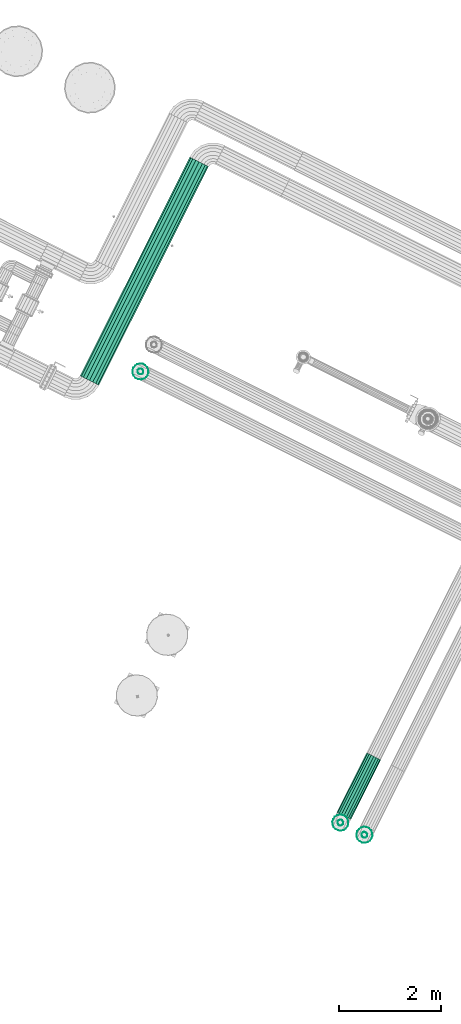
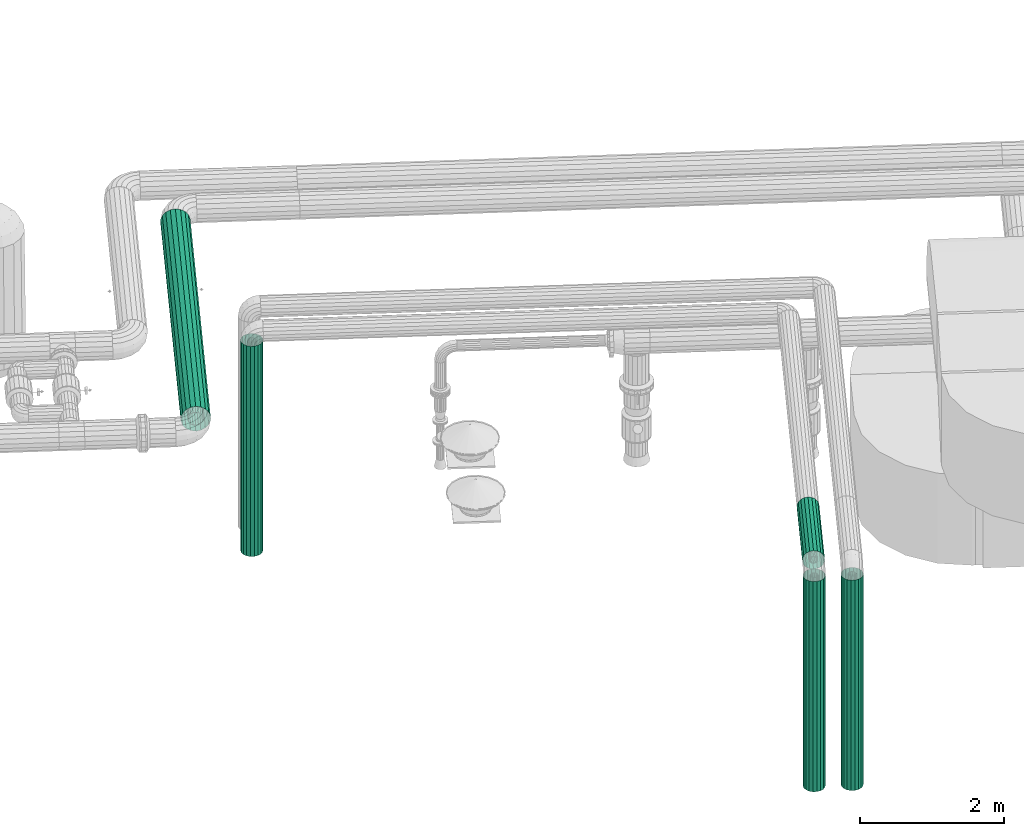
# One storey, part 4 of 152: 5 flow segments.
"""IFC2X3 building model written with IfcOpenShell, lengths in metres."""

from ifc_helpers import new_model, si_unit, derived_unit, direction, frame, origin, place, context, subcontext, project, spatial, face_set, surface_model, source, transform, mapped, material, type_object, type_shapes, element, save


model = new_model("IFC2X3")

# Units and contexts
model_context = context("Model", 3, precision=5.2338327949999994e-05, world=origin(), true_north=direction((0.0, 1.0)))
body_context = subcontext(model_context, "Body", "Model", "MODEL_VIEW")
ifc_project = project(units=[si_unit("LENGTHUNIT", "METRE"), si_unit("AREAUNIT", "SQUARE_METRE"), si_unit("VOLUMEUNIT", "CUBIC_METRE"), si_unit("MASSUNIT", "GRAM", prefix="KILO"), si_unit("PLANEANGLEUNIT", "RADIAN"), derived_unit("THERMALTRANSMITTANCEUNIT", [(si_unit("MASSUNIT", "GRAM", prefix="KILO"), 1), (si_unit("THERMODYNAMICTEMPERATUREUNIT", "KELVIN"), -1), (si_unit("TIMEUNIT", "SECOND"), -3)])], contexts=[model_context])

# Site, building, storey
site_placement = place(None, frame((0.0, 0.0, 0.0), z_axis=(0.0, 0.0, 1.0), x_axis=(0.8939966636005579, -0.4480736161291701, 0.0)))
site = spatial("IfcSite", under=ifc_project, at=site_placement, Name="Default", CompositionType="ELEMENT")
building_placement = place(site_placement, origin())
building = spatial("IfcBuilding", under=site, at=building_placement, CompositionType="ELEMENT")
storey_placement = place(building_placement, frame((0.0, 0.0, 2.7499999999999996)))
storey = spatial("IfcBuildingStorey", under=building, at=storey_placement, Name="1. Obergeschoss", CompositionType="ELEMENT", Elevation=2.7499999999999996)

# Flow segments
ifc_material_1 = material(Name="IfcSurfaceStyle #9317")
distribution_element_type_1 = type_object("IfcDistributionElementType", Name="Stahlrohr nach DIN 2448 9686:Stahlrohr nach DIN 2448 9686", material=ifc_material_1)
shared_shape_1 = source(origin(), body_context, "Body", "SurfaceModel", [
    surface_model("IfcFaceBasedSurfaceModel", [(17.569082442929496, 6.7661679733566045, 2.95), (17.572529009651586, 6.746621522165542, 2.95), (17.572529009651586, 6.746621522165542, 6.518000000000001), (17.569082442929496, 6.7661679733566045, 6.518000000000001), (17.582453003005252, 6.729432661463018, 2.95), (17.582453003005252, 6.729432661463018, 6.518000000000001), (17.5976574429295, 6.7166746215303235, 2.95), (17.5976574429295, 6.7166746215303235, 6.518000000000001), (17.616308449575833, 6.709886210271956, 2.95), (17.616308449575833, 6.709886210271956, 6.518000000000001), (17.636156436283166, 6.709886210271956, 2.95), (17.636156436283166, 6.709886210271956, 6.518000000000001), (17.654807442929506, 6.7166746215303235, 2.95), (17.654807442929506, 6.7166746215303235, 6.518000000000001), (17.67001188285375, 6.729432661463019, 2.95), (17.67001188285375, 6.729432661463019, 6.518000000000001), (17.679935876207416, 6.746621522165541, 2.95), (17.679935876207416, 6.746621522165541, 6.518000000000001), (17.6833824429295, 6.766167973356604, 2.95), (17.6833824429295, 6.766167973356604, 6.518000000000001), (17.679935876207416, 6.785714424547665, 2.95), (17.679935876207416, 6.785714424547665, 6.518000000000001), (17.67001188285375, 6.802903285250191, 2.95), (17.67001188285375, 6.802903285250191, 6.518000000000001), (17.654807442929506, 6.815661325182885, 2.95), (17.654807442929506, 6.815661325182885, 6.518000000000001), (17.63615643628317, 6.822449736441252, 2.95), (17.63615643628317, 6.822449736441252, 6.518000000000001), (17.616308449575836, 6.822449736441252, 2.95), (17.616308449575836, 6.822449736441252, 6.518000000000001), (17.597657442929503, 6.815661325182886, 2.95), (17.597657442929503, 6.815661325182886, 6.518000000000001), (17.582453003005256, 6.802903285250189, 2.95), (17.582453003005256, 6.802903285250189, 6.518000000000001), (17.57252900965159, 6.785714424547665, 2.95), (17.57252900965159, 6.785714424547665, 6.518000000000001), (17.4690824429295, 6.766167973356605, 2.95), (17.478559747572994, 6.712419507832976, 2.95), (17.478559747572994, 6.712419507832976, 6.518000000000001), (17.4690824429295, 6.766167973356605, 6.518000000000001), (17.505848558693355, 6.665153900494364, 2.95), (17.505848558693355, 6.665153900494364, 6.518000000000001), (17.547657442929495, 6.630072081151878, 2.95), (17.547657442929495, 6.630072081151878, 6.518000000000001), (17.598943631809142, 6.611405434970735, 2.95), (17.598943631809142, 6.611405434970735, 6.518000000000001), (17.653521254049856, 6.6114054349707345, 2.95), (17.653521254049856, 6.6114054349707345, 6.518000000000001), (17.704807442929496, 6.630072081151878, 2.95), (17.704807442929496, 6.630072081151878, 6.518000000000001), (17.746616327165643, 6.665153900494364, 2.95), (17.746616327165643, 6.665153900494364, 6.518000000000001), (17.773905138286, 6.712419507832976, 2.95), (17.773905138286, 6.712419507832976, 6.518000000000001), (17.783382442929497, 6.766167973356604, 2.95), (17.783382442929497, 6.766167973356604, 6.518000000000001), (17.773905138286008, 6.8199164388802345, 2.95), (17.773905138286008, 6.8199164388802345, 6.518000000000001), (17.746616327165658, 6.867182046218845, 2.95), (17.746616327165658, 6.867182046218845, 6.518000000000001), (17.70480744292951, 6.9022638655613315, 2.95), (17.70480744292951, 6.9022638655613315, 6.518000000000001), (17.65352125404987, 6.920930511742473, 2.95), (17.65352125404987, 6.920930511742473, 6.518000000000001), (17.598943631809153, 6.920930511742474, 2.95), (17.598943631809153, 6.920930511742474, 6.518000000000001), (17.547657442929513, 6.902263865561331, 2.95), (17.547657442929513, 6.902263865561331, 6.518000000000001), (17.505848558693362, 6.867182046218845, 2.95), (17.505848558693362, 6.867182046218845, 6.518000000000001), (17.478559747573, 6.8199164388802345, 2.95), (17.478559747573, 6.8199164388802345, 6.518000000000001)], [face_set([[[0, 1, 2, 3]], [[1, 4, 5, 2]], [[4, 6, 7, 5]], [[6, 8, 9, 7]], [[8, 10, 11, 9]], [[10, 12, 13, 11]], [[12, 14, 15, 13]], [[14, 16, 17, 15]], [[16, 18, 19, 17]], [[18, 20, 21, 19]], [[20, 22, 23, 21]], [[22, 24, 25, 23]], [[24, 26, 27, 25]], [[26, 28, 29, 27]], [[28, 30, 31, 29]], [[30, 32, 33, 31]], [[32, 34, 35, 33]], [[34, 0, 3, 35]], [[36, 37, 38, 39]], [[37, 40, 41, 38]], [[40, 42, 43, 41]], [[42, 44, 45, 43]], [[44, 46, 47, 45]], [[46, 48, 49, 47]], [[48, 50, 51, 49]], [[50, 52, 53, 51]], [[52, 54, 55, 53]], [[54, 56, 57, 55]], [[56, 58, 59, 57]], [[58, 60, 61, 59]], [[60, 62, 63, 61]], [[62, 64, 65, 63]], [[64, 66, 67, 65]], [[66, 68, 69, 67]], [[68, 70, 71, 69]], [[70, 36, 39, 71]]])]),
])
type_shapes(distribution_element_type_1, [shared_shape_1])
flow_segment_1_placement = place(storey_placement, frame((0.0, 0.0, -2.7499999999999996)))
element("IfcFlowSegment", 1, at=flow_segment_1_placement, inside=storey, type_object=distribution_element_type_1, material=ifc_material_1, Name="Stahlrohr nach DIN 2448", ObjectType="Stahlrohr nach DIN 2448", context=body_context, shape_type="MappedRepresentation", body=[
    mapped(shared_shape_1, transform((0.0, 0.0, 0.0), scale=1.0)),
])
ifc_material_2 = material(Name="IfcSurfaceStyle #1741")
distribution_element_type_2 = type_object("IfcDistributionElementType", Name="Stahlrohr nach DIN 2448 9783:Stahlrohr nach DIN 2448 9783", material=ifc_material_2)
shared_shape_2 = source(origin(), body_context, "Body", "SurfaceModel", [
    surface_model("IfcFaceBasedSurfaceModel", [(25.681449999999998, 0.612299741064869, 6.5184), (25.678003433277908, 0.5927532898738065, 6.5184), (25.678003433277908, 0.5927532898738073, 2.95), (25.681449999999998, 0.6122997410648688, 2.95), (25.668079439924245, 0.5755644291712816, 6.5184), (25.66807943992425, 0.575564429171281, 2.95), (25.652875, 0.562806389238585, 6.5184), (25.652875, 0.562806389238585, 2.95), (25.634223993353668, 0.556017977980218, 6.5184), (25.63422399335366, 0.5560179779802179, 2.95), (25.614376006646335, 0.5560179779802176, 6.5184), (25.61437600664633, 0.5560179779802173, 2.95), (25.595724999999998, 0.562806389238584, 6.5184), (25.595725, 0.5628063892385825, 2.95), (25.58052056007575, 0.5755644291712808, 6.5184), (25.58052056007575, 0.5755644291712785, 2.95), (25.57059656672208, 0.5927532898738, 6.5184), (25.57059656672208, 0.5927532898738, 2.95), (25.567149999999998, 0.6122997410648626, 6.5184), (25.56714999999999, 0.6122997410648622, 2.95), (25.57059656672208, 0.6318461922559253, 6.5184), (25.57059656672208, 0.6318461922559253, 2.95), (25.580520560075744, 0.6490350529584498, 6.5184), (25.580520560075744, 0.6490350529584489, 2.95), (25.595724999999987, 0.6617930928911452, 6.5184), (25.59572499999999, 0.6617930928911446, 2.95), (25.61437600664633, 0.668581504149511, 6.5184), (25.614376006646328, 0.668581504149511, 2.95), (25.63422399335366, 0.6685815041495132, 6.5184), (25.634223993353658, 0.668581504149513, 2.95), (25.65287499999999, 0.6617930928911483, 6.5184), (25.65287499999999, 0.6617930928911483, 2.95), (25.66807943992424, 0.649035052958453, 6.5184), (25.66807943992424, 0.649035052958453, 2.95), (25.67800343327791, 0.6318461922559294, 6.5184), (25.67800343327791, 0.6318461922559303, 2.95), (25.78145, 0.6122997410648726, 6.5184), (25.771972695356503, 0.558551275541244, 6.5184), (25.771972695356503, 0.558551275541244, 2.95), (25.78145, 0.6122997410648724, 2.95), (25.744683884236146, 0.5112856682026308, 6.5184), (25.744683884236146, 0.5112856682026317, 2.95), (25.702875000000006, 0.4762038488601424, 6.5184), (25.702875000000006, 0.4762038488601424, 2.95), (25.651588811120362, 0.4575372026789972, 6.5184), (25.651588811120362, 0.4575372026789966, 2.95), (25.597011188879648, 0.4575372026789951, 6.5184), (25.597011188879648, 0.4575372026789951, 2.95), (25.545725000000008, 0.4762038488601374, 6.5184), (25.545725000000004, 0.476203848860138, 2.95), (25.503916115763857, 0.5112856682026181, 6.5184), (25.50391611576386, 0.5112856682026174, 2.95), (25.476627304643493, 0.5585512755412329, 6.5184), (25.476627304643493, 0.5585512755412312, 2.95), (25.467149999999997, 0.6122997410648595, 6.5184), (25.467149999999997, 0.6122997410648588, 2.95), (25.47662730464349, 0.6660482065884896, 6.5184), (25.47662730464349, 0.666048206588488, 2.95), (25.503916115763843, 0.7133138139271, 6.5184), (25.503916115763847, 0.7133138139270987, 2.95), (25.545724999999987, 0.7483956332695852, 6.5184), (25.545724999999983, 0.7483956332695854, 2.95), (25.597011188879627, 0.7670622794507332, 6.5184), (25.597011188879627, 0.7670622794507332, 2.95), (25.651588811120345, 0.7670622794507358, 6.5184), (25.651588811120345, 0.7670622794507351, 2.95), (25.702874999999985, 0.7483956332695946, 6.5184), (25.702874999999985, 0.7483956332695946, 2.95), (25.74468388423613, 0.7133138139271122, 6.5184), (25.74468388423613, 0.7133138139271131, 2.95), (25.771972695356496, 0.666048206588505, 6.5184), (25.771972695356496, 0.666048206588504, 2.95)], [face_set([[[0, 1, 2, 3]], [[1, 4, 5, 2]], [[4, 6, 7, 5]], [[6, 8, 9, 7]], [[8, 10, 11, 9]], [[10, 12, 13, 11]], [[12, 14, 15, 13]], [[14, 16, 17, 15]], [[16, 18, 19, 17]], [[18, 20, 21, 19]], [[20, 22, 23, 21]], [[22, 24, 25, 23]], [[24, 26, 27, 25]], [[26, 28, 29, 27]], [[28, 30, 31, 29]], [[30, 32, 33, 31]], [[32, 34, 35, 33]], [[34, 0, 3, 35]], [[36, 37, 38, 39]], [[37, 40, 41, 38]], [[40, 42, 43, 41]], [[42, 44, 45, 43]], [[44, 46, 47, 45]], [[46, 48, 49, 47]], [[48, 50, 51, 49]], [[50, 52, 53, 51]], [[52, 54, 55, 53]], [[54, 56, 57, 55]], [[56, 58, 59, 57]], [[58, 60, 61, 59]], [[60, 62, 63, 61]], [[62, 64, 65, 63]], [[64, 66, 67, 65]], [[66, 68, 69, 67]], [[68, 70, 71, 69]], [[70, 36, 39, 71]]])]),
])
type_shapes(distribution_element_type_2, [shared_shape_2])
flow_segment_2_placement = place(storey_placement, frame((0.0, 0.0, -2.7499999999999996)))
element("IfcFlowSegment", 2, at=flow_segment_2_placement, inside=storey, type_object=distribution_element_type_2, material=ifc_material_2, Name="Stahlrohr nach DIN 2448", ObjectType="Stahlrohr nach DIN 2448", context=body_context, shape_type="MappedRepresentation", body=[
    mapped(shared_shape_2, transform((0.0, 0.0, 0.0), scale=1.0)),
])
distribution_element_type_3 = type_object("IfcDistributionElementType", Name="Stahlrohr nach DIN 2448 10064:Stahlrohr nach DIN 2448 10064", material=ifc_material_1)
shared_shape_3 = source(origin(), body_context, "Body", "SurfaceModel", [
    surface_model("IfcFaceBasedSurfaceModel", [(25.15284999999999, 0.6122997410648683, 6.5184), (25.1494034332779, 0.5927532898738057, 6.5184), (25.1494034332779, 0.5927532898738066, 2.9499999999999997), (25.15284999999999, 0.6122997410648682, 2.9499999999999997), (25.13947943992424, 0.5755644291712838, 6.5184), (25.13947943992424, 0.5755644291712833, 2.9499999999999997), (25.12427499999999, 0.5628063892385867, 6.5184), (25.12427499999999, 0.5628063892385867, 2.9499999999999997), (25.105623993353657, 0.5560179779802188, 6.5184), (25.105623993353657, 0.5560179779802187, 2.9499999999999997), (25.085776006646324, 0.5560179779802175, 6.5184), (25.08577600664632, 0.5560179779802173, 2.9499999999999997), (25.067124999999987, 0.562806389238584, 6.5184), (25.06712499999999, 0.5628063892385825, 2.9499999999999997), (25.051920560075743, 0.5755644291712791, 6.5184), (25.051920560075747, 0.5755644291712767, 2.9499999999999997), (25.041996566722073, 0.5927532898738, 6.5184), (25.041996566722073, 0.5927532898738, 2.9499999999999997), (25.038549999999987, 0.6122997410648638, 6.5184), (25.038549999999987, 0.6122997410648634, 2.9499999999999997), (25.041996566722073, 0.6318461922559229, 6.5184), (25.041996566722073, 0.6318461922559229, 2.9499999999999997), (25.051920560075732, 0.6490350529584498, 6.5184), (25.051920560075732, 0.6490350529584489, 2.9499999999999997), (25.067124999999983, 0.6617930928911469, 6.5184), (25.067124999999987, 0.6617930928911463, 2.9499999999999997), (25.08577600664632, 0.6685815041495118, 6.5184), (25.085776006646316, 0.6685815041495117, 2.9499999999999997), (25.105623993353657, 0.6685815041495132, 6.5184), (25.10562399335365, 0.668581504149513, 2.9499999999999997), (25.124274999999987, 0.6617930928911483, 6.5184), (25.124274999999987, 0.6617930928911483, 2.9499999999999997), (25.13947943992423, 0.6490350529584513, 6.5184), (25.13947943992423, 0.6490350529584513, 2.9499999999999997), (25.1494034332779, 0.6318461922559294, 6.5184), (25.1494034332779, 0.6318461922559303, 2.9499999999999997), (25.25284999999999, 0.6122997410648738, 6.5184), (25.2433726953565, 0.558551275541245, 6.5184), (25.2433726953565, 0.558551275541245, 2.9499999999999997), (25.25284999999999, 0.6122997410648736, 2.9499999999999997), (25.21608388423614, 0.5112856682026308, 6.5184), (25.21608388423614, 0.5112856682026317, 2.9499999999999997), (25.174275, 0.4762038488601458, 6.5184), (25.174275, 0.4762038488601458, 2.9499999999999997), (25.12298881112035, 0.45753720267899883, 6.5184), (25.122988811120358, 0.45753720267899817, 2.9499999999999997), (25.068411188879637, 0.4575372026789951, 6.5184), (25.068411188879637, 0.4575372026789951, 2.9499999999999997), (25.017124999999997, 0.47620384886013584, 6.5184), (25.017124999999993, 0.47620384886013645, 2.9499999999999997), (24.97531611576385, 0.5112856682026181, 6.5184), (24.97531611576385, 0.5112856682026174, 2.9499999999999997), (24.94802730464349, 0.5585512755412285, 6.5184), (24.94802730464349, 0.5585512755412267, 2.9499999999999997), (24.938549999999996, 0.612299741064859, 6.5184), (24.93854999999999, 0.6122997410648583, 2.9499999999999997), (24.948027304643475, 0.6660482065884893, 6.5184), (24.948027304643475, 0.6660482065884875, 2.9499999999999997), (24.97531611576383, 0.7133138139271, 6.5184), (24.97531611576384, 0.7133138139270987, 2.9499999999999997), (25.017124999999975, 0.7483956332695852, 6.5184), (25.01712499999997, 0.7483956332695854, 2.9499999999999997), (25.068411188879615, 0.7670622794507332, 6.5184), (25.068411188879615, 0.7670622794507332, 2.9499999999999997), (25.122988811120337, 0.7670622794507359, 6.5184), (25.12298881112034, 0.7670622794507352, 2.9499999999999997), (25.174274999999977, 0.7483956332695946, 6.5184), (25.174274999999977, 0.7483956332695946, 2.9499999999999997), (25.216083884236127, 0.7133138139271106, 6.5184), (25.216083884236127, 0.7133138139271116, 2.9499999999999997), (25.243372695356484, 0.666048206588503, 6.5184), (25.243372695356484, 0.666048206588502, 2.9499999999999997)], [face_set([[[0, 1, 2, 3]], [[1, 4, 5, 2]], [[4, 6, 7, 5]], [[6, 8, 9, 7]], [[8, 10, 11, 9]], [[10, 12, 13, 11]], [[12, 14, 15, 13]], [[14, 16, 17, 15]], [[16, 18, 19, 17]], [[18, 20, 21, 19]], [[20, 22, 23, 21]], [[22, 24, 25, 23]], [[24, 26, 27, 25]], [[26, 28, 29, 27]], [[28, 30, 31, 29]], [[30, 32, 33, 31]], [[32, 34, 35, 33]], [[34, 0, 3, 35]], [[36, 37, 38, 39]], [[37, 40, 41, 38]], [[40, 42, 43, 41]], [[42, 44, 45, 43]], [[44, 46, 47, 45]], [[46, 48, 49, 47]], [[48, 50, 51, 49]], [[50, 52, 53, 51]], [[52, 54, 55, 53]], [[54, 56, 57, 55]], [[56, 58, 59, 57]], [[58, 60, 61, 59]], [[60, 62, 63, 61]], [[62, 64, 65, 63]], [[64, 66, 67, 65]], [[66, 68, 69, 67]], [[68, 70, 71, 69]], [[70, 36, 39, 71]]])]),
])
type_shapes(distribution_element_type_3, [shared_shape_3])
flow_segment_3_placement = place(storey_placement, frame((0.0, 0.0, -2.7499999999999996)))
element("IfcFlowSegment", 3, at=flow_segment_3_placement, inside=storey, type_object=distribution_element_type_3, material=ifc_material_1, Name="Stahlrohr nach DIN 2448", ObjectType="Stahlrohr nach DIN 2448", context=body_context, shape_type="MappedRepresentation", body=[
    mapped(shared_shape_3, transform((0.0, 0.0, 0.0), scale=1.0)),
])
distribution_element_type_4 = type_object("IfcDistributionElementType", Name="Stahlrohr nach DIN 2448 226931:Stahlrohr nach DIN 2448 226931", material=ifc_material_1)
shared_shape_4 = source(origin(), body_context, "Body", "SurfaceModel", [
    surface_model("IfcFaceBasedSurfaceModel", [(16.810041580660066, 10.957806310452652, 5.74519078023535), (16.77257327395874, 10.957806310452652, 5.7385841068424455), (16.77257327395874, 6.161787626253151, 5.7385841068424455), (16.810041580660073, 6.161787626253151, 5.745190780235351), (16.73962419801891, 10.957806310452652, 5.719560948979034), (16.73962419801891, 6.161787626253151, 5.7195609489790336), (16.715168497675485, 10.957806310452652, 5.690415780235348), (16.71516849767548, 6.161787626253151, 5.690415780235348), (16.702155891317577, 10.957806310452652, 5.654663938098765), (16.702155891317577, 6.161787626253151, 5.6546639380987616), (16.70215589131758, 10.957806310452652, 5.61661762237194), (16.70215589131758, 6.161787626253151, 5.616617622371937), (16.71516849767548, 10.957806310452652, 5.5808657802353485), (16.715168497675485, 6.161787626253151, 5.5808657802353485), (16.73962419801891, 10.957806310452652, 5.551720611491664), (16.73962419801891, 6.161787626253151, 5.551720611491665), (16.77257327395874, 10.957806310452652, 5.5326974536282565), (16.77257327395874, 6.161787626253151, 5.532697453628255), (16.810041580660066, 10.957806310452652, 5.52609078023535), (16.810041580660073, 6.161787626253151, 5.526090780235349), (16.847509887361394, 10.957806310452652, 5.5326974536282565), (16.847509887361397, 6.161787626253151, 5.532697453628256), (16.88045896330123, 10.957806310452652, 5.5517206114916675), (16.88045896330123, 6.161787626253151, 5.5517206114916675), (16.90491466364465, 10.957806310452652, 5.580865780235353), (16.90491466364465, 6.161787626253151, 5.580865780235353), (16.917927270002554, 10.957806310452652, 5.616617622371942), (16.917927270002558, 6.161787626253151, 5.61661762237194), (16.917927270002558, 10.957806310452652, 5.654663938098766), (16.917927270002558, 6.161787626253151, 5.654663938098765), (16.904914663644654, 10.957806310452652, 5.6904157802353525), (16.904914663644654, 6.161787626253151, 5.690415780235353), (16.88045896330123, 10.957806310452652, 5.719560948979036), (16.88045896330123, 6.161787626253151, 5.719560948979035), (16.847509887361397, 10.957806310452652, 5.738584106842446), (16.847509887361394, 6.161787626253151, 5.738584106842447), (16.810041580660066, 10.957806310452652, 5.845190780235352), (16.73837125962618, 10.957806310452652, 5.832553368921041), (16.738371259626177, 6.161787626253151, 5.832553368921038), (16.810041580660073, 6.161787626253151, 5.84519078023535), (16.675345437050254, 10.957806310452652, 5.7961653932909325), (16.675345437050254, 6.161787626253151, 5.796165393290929), (16.628565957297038, 10.957806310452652, 5.740415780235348), (16.62856595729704, 6.161787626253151, 5.740415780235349), (16.603675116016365, 10.957806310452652, 5.672028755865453), (16.603675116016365, 6.161787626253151, 5.672028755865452), (16.603675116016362, 10.957806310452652, 5.5992528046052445), (16.603675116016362, 6.161787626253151, 5.599252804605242), (16.628565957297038, 10.957806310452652, 5.530865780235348), (16.628565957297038, 6.161787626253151, 5.530865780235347), (16.675345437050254, 10.957806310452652, 5.475116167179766), (16.675345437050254, 6.161787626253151, 5.475116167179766), (16.738371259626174, 10.957806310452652, 5.438728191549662), (16.73837125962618, 6.161787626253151, 5.438728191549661), (16.810041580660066, 10.957806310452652, 5.426090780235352), (16.810041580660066, 6.161787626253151, 5.4260907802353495), (16.88171190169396, 10.957806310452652, 5.438728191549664), (16.88171190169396, 6.161787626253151, 5.438728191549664), (16.94473772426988, 10.957806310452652, 5.475116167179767), (16.94473772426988, 6.161787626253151, 5.4751161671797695), (16.991517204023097, 10.957806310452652, 5.530865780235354), (16.991517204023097, 6.161787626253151, 5.530865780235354), (17.016408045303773, 10.957806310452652, 5.599252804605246), (17.016408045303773, 6.161787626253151, 5.599252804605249), (17.016408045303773, 10.957806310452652, 5.672028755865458), (17.01640804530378, 6.161787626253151, 5.672028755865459), (16.991517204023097, 10.957806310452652, 5.740415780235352), (16.991517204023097, 6.161787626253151, 5.740415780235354), (16.944737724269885, 10.957806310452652, 5.796165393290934), (16.944737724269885, 6.161787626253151, 5.796165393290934), (16.88171190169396, 10.957806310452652, 5.83255336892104), (16.881711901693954, 6.161787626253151, 5.83255336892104)], [face_set([[[0, 1, 2, 3]], [[1, 4, 5, 2]], [[4, 6, 7, 5]], [[6, 8, 9, 7]], [[8, 10, 11, 9]], [[10, 12, 13, 11]], [[12, 14, 15, 13]], [[14, 16, 17, 15]], [[16, 18, 19, 17]], [[18, 20, 21, 19]], [[20, 22, 23, 21]], [[22, 24, 25, 23]], [[24, 26, 27, 25]], [[26, 28, 29, 27]], [[28, 30, 31, 29]], [[30, 32, 33, 31]], [[32, 34, 35, 33]], [[34, 0, 3, 35]], [[36, 37, 38, 39]], [[37, 40, 41, 38]], [[40, 42, 43, 41]], [[42, 44, 45, 43]], [[44, 46, 47, 45]], [[46, 48, 49, 47]], [[48, 50, 51, 49]], [[50, 52, 53, 51]], [[52, 54, 55, 53]], [[54, 56, 57, 55]], [[56, 58, 59, 57]], [[58, 60, 61, 59]], [[60, 62, 63, 61]], [[62, 64, 65, 63]], [[64, 66, 67, 65]], [[66, 68, 69, 67]], [[68, 70, 71, 69]], [[70, 36, 39, 71]]])]),
])
type_shapes(distribution_element_type_4, [shared_shape_4])
flow_segment_4_placement = place(storey_placement, frame((0.0, 0.0, -2.7499999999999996)))
element("IfcFlowSegment", 4, at=flow_segment_4_placement, inside=storey, type_object=distribution_element_type_4, material=ifc_material_1, Name="Stahlrohr nach DIN 2448", ObjectType="Stahlrohr nach DIN 2448", context=body_context, shape_type="MappedRepresentation", body=[
    mapped(shared_shape_4, transform((0.0, 0.0, 0.0), scale=1.0)),
])
distribution_element_type_5 = type_object("IfcDistributionElementType", Name="Stahlrohr nach DIN 2448 247570:Stahlrohr nach DIN 2448 247570", material=ifc_material_1)
shared_shape_5 = source(origin(), body_context, "Body", "SurfaceModel", [
    surface_model("IfcFaceBasedSurfaceModel", [(25.095699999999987, 2.0686797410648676, 6.613249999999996), (25.11524645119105, 2.0686797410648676, 6.6166965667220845), (25.11524645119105, 0.7642997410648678, 6.6166965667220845), (25.095699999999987, 0.7642997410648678, 6.613249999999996), (25.132435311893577, 2.0686797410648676, 6.626620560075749), (25.132435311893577, 0.7642997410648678, 6.626620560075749), (25.14519335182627, 2.0686797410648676, 6.641824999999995), (25.14519335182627, 0.7642997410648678, 6.641825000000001), (25.151981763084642, 2.0686797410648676, 6.66047600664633), (25.15198176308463, 0.7642997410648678, 6.660476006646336), (25.15198176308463, 2.0686797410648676, 6.680323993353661), (25.15198176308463, 0.7642997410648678, 6.680323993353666), (25.14519335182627, 2.0686797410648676, 6.698975), (25.14519335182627, 0.7642997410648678, 6.698975), (25.132435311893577, 2.0686797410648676, 6.714179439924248), (25.132435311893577, 0.7642997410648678, 6.714179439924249), (25.11524645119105, 2.0686797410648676, 6.724103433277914), (25.115246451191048, 0.7642997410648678, 6.724103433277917), (25.09569999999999, 2.0686797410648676, 6.727549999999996), (25.095699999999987, 0.7642997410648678, 6.72755), (25.07615354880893, 2.0686797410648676, 6.724103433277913), (25.076153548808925, 0.7642997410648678, 6.7241034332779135), (25.058964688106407, 2.0686797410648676, 6.714179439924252), (25.058964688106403, 0.7642997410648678, 6.714179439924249), (25.04620664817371, 2.0686797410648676, 6.698975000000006), (25.046206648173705, 0.7642997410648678, 6.698975), (25.039418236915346, 2.0686797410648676, 6.680323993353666), (25.039418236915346, 0.7642997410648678, 6.680323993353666), (25.039418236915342, 2.0686797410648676, 6.6604760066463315), (25.03941823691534, 0.7642997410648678, 6.660476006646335), (25.0462066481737, 2.0686797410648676, 6.641825), (25.0462066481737, 0.7642997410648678, 6.641825), (25.058964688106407, 2.0686797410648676, 6.6266205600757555), (25.058964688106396, 0.7642997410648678, 6.62662056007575), (25.076153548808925, 2.0686797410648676, 6.616696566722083), (25.07615354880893, 0.7642997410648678, 6.616696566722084), (25.095699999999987, 2.0686797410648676, 6.5132499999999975), (25.149448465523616, 2.0686797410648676, 6.522727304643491), (25.14944846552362, 0.7642997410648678, 6.522727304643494), (25.095699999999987, 0.7642997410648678, 6.513250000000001), (25.196714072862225, 2.0686797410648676, 6.550016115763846), (25.196714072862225, 0.7642997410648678, 6.550016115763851), (25.23179589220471, 2.0686797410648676, 6.591824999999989), (25.231795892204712, 0.7642997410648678, 6.591825), (25.250462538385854, 2.0686797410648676, 6.643111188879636), (25.25046253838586, 0.7642997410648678, 6.643111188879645), (25.250462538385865, 2.0686797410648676, 6.69768881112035), (25.25046253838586, 0.7642997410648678, 6.697688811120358), (25.231795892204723, 2.0686797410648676, 6.748974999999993), (25.23179589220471, 0.7642997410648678, 6.7489750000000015), (25.19671407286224, 2.0686797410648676, 6.790783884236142), (25.19671407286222, 0.7642997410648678, 6.790783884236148), (25.14944846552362, 2.0686797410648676, 6.8180726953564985), (25.149448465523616, 0.7642997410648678, 6.818072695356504), (25.095699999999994, 2.0686797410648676, 6.827549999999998), (25.095699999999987, 0.7642997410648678, 6.8275500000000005), (25.041951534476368, 2.0686797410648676, 6.818072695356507), (25.041951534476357, 0.7642997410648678, 6.818072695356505), (24.994685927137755, 2.0686797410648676, 6.790783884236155), (24.99468592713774, 0.7642997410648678, 6.790783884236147), (24.95960410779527, 2.0686797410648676, 6.74897500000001), (24.95960410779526, 0.7642997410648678, 6.7489750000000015), (24.94093746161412, 2.0686797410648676, 6.697688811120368), (24.940937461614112, 0.7642997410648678, 6.697688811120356), (24.94093746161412, 2.0686797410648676, 6.64311118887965), (24.940937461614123, 0.7642997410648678, 6.643111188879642), (24.95960410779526, 2.0686797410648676, 6.591825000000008), (24.959604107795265, 0.7642997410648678, 6.591825), (24.99468592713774, 2.0686797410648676, 6.550016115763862), (24.994685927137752, 0.7642997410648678, 6.550016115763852), (25.041951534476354, 2.0686797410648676, 6.522727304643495), (25.041951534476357, 0.7642997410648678, 6.522727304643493)], [face_set([[[0, 1, 2, 3]], [[1, 4, 5, 2]], [[4, 6, 7, 5]], [[6, 8, 9, 7]], [[8, 10, 11, 9]], [[10, 12, 13, 11]], [[12, 14, 15, 13]], [[14, 16, 17, 15]], [[16, 18, 19, 17]], [[18, 20, 21, 19]], [[20, 22, 23, 21]], [[22, 24, 25, 23]], [[24, 26, 27, 25]], [[26, 28, 29, 27]], [[28, 30, 31, 29]], [[30, 32, 33, 31]], [[32, 34, 35, 33]], [[34, 0, 3, 35]], [[36, 37, 38, 39]], [[37, 40, 41, 38]], [[40, 42, 43, 41]], [[42, 44, 45, 43]], [[44, 46, 47, 45]], [[46, 48, 49, 47]], [[48, 50, 51, 49]], [[50, 52, 53, 51]], [[52, 54, 55, 53]], [[54, 56, 57, 55]], [[56, 58, 59, 57]], [[58, 60, 61, 59]], [[60, 62, 63, 61]], [[62, 64, 65, 63]], [[64, 66, 67, 65]], [[66, 68, 69, 67]], [[68, 70, 71, 69]], [[70, 36, 39, 71]]])]),
])
type_shapes(distribution_element_type_5, [shared_shape_5])
flow_segment_5_placement = place(storey_placement, frame((0.0, 0.0, -2.7499999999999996)))
element("IfcFlowSegment", 5, at=flow_segment_5_placement, inside=storey, type_object=distribution_element_type_5, material=ifc_material_1, Name="Stahlrohr nach DIN 2448", ObjectType="Stahlrohr nach DIN 2448", context=body_context, shape_type="MappedRepresentation", body=[
    mapped(shared_shape_5, transform((0.0, 0.0, 0.0), scale=1.0)),
])

save(model, "model.ifc")
